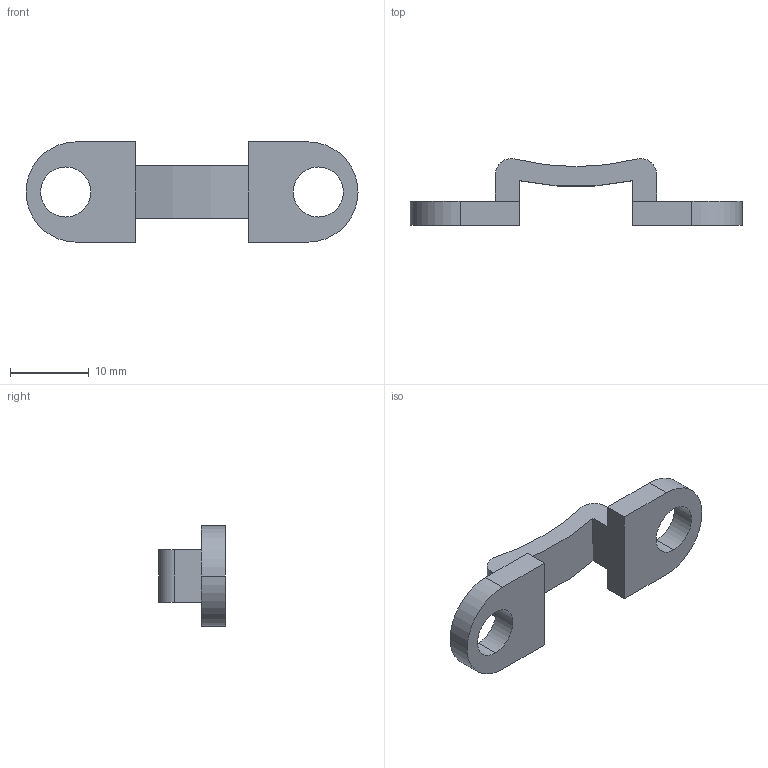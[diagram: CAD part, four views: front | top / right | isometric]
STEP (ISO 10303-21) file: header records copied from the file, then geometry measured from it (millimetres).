
FILE_DESCRIPTION (( 'STEP AP214' ), '1' );
FILE_NAME ('5075_V02_REF_PRT_MALE_AR-CLIP.STEP', '2026-04-28T16:06:39', ( '' ), ( '' ), 'SwSTEP 2.0', 'SolidWorks 2026', '' );
FILE_SCHEMA (( 'AUTOMOTIVE_DESIGN' ));
Length unit declared in the file: millimetre
Products named in the file (1): 5075_V02_REF_PRT_MALE_AR-CLIP
Bounding box: 42.06 x 8.43 x 12.7 mm (x, y, z)
Volume: 1221.5 mm3; surface area: 1341 mm2
Topology: 1 solids, 1 shells, 26 faces, 72 edges, 48 vertices
Faces by surface type: plane 14, cylinder 12
Entity records: 871 total; most frequent: DIRECTION 150, CARTESIAN_POINT 147, ORIENTED_EDGE 144, EDGE_CURVE 72, AXIS2_PLACEMENT_3D 51, VERTEX_POINT 48, VECTOR 48, LINE 48
